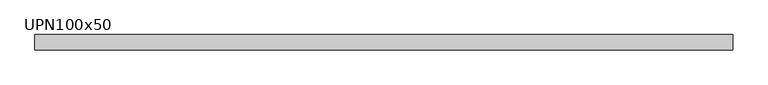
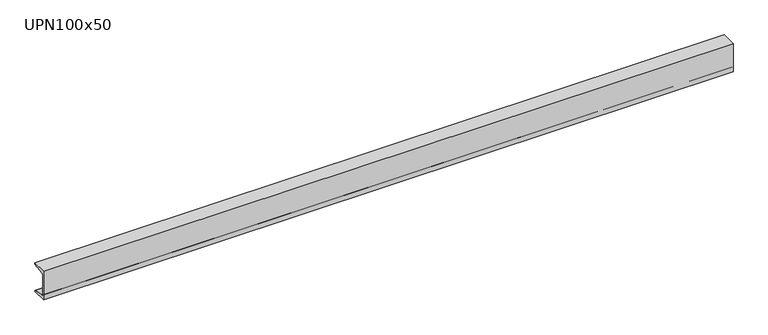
"""IFC4 building model written with IfcOpenShell, lengths in millimetres: beam geometry, M_MC Shapes : UPN100x50."""

from ifc_helpers import new_model, si_unit, point, frame, frame_2d, origin, place, context, project, spatial, polyline, circle_curve, trimmed, segment, composite_curve, outline, extrude, source, transform, mapped, element, save


def upn100x50_21efe051(model_context):
    return source(origin(), model_context, "Body", "SweptSolid", [
        extrude(outline(composite_curve([segment(polyline([(-10.9, 50.0), (39.1, 50.0), (39.1, 49.0253247)]), True, "CONTINUOUS"), segment(trimmed(circle_curve(frame_2d((35.15, 49.0253247)), 3.95), [point((39.1, 49.0253247))], [point((35.7993773, 45.1290689))], False, "CARTESIAN"), True, "CONTINUOUS"), segment(polyline([(35.7993773, 45.1290689), (0.2512455, 39.2043685)]), True, "CONTINUOUS"), segment(trimmed(circle_curve(frame_2d((1.55, 31.4118569)), 7.9), [point((0.2512455, 39.2043685))], [point((-6.35, 31.4118569))], True, "CARTESIAN"), True, "CONTINUOUS"), segment(polyline([(-6.35, 31.4118569), (-6.35, -31.4118569)]), True, "CONTINUOUS"), segment(trimmed(circle_curve(frame_2d((1.55, -31.4118569)), 7.9), [point((-6.35, -31.4118569))], [point((0.2512455, -39.2043685))], True, "CARTESIAN"), True, "CONTINUOUS"), segment(polyline([(0.2512455, -39.2043685), (35.7993773, -45.1290689)]), True, "CONTINUOUS"), segment(trimmed(circle_curve(frame_2d((35.15, -49.0253247)), 3.95), [point((35.7993773, -45.1290689))], [point((39.1, -49.0253247))], False, "CARTESIAN"), True, "CONTINUOUS"), segment(polyline([(39.1, -49.0253247), (39.1, -50.0), (-10.9, -50.0), (-10.9, 50.0)]), True, "CONTINUOUS")], self_intersect=False)), frame((-1145.85, 0.0, 0.0), z_axis=(1.0, 0.0, 0.0), x_axis=(0.0, 1.0, 0.0)), (0.0, 0.0, 1.0), 2291.7),
    ])


if __name__ == "__main__":
    model = new_model("IFC4")
    model_context = context("Model", 3, world=origin())
    ifc_project = project(units=[si_unit("LENGTHUNIT", "METRE", prefix="MILLI")], contexts=[model_context])
    site = spatial("IfcSite", under=ifc_project)
    building = spatial("IfcBuilding", under=site)
    placement = place(None, origin())
    upn100x50_shape = upn100x50_21efe051(model_context)
    element("IfcBeam", 1, ObjectType="M_MC Shapes : UPN100x50", at=placement, inside=building, context=model_context, shape_type="MappedRepresentation", body=[
        mapped(upn100x50_shape, transform((0.0, 0.0, 0.0), x_axis=(1.0, 0.0, 0.0), y_axis=(0.0, 1.0, 0.0), z_axis=(0.0, 0.0, 1.0))),
    ])
    save(model, "model.ifc")
